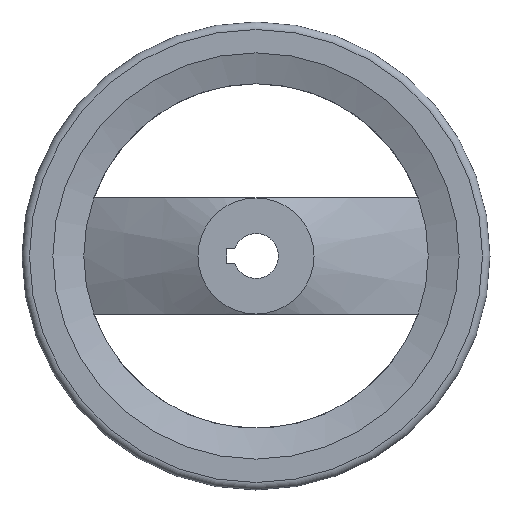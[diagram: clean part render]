
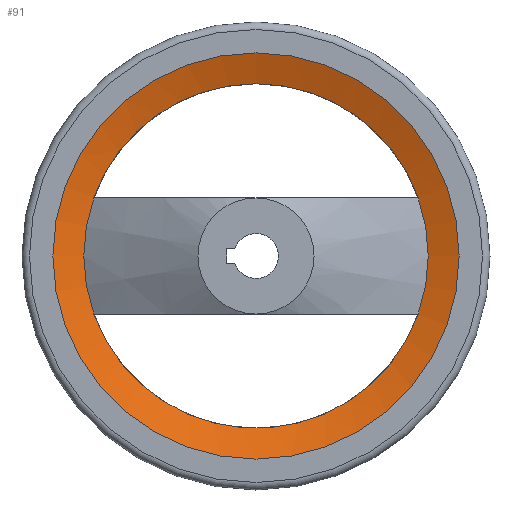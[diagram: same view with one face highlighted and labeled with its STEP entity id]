
A CAD part, left-side view. The second image highlights one B-rep face of the part: STEP entity #91.
In plain terms, the highlighted conical face has half-angle 70.918 degrees and reference radius 46 mm.
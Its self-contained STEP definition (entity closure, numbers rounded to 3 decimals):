
#91 = ADVANCED_FACE( '', ( #140, #141 ), #142, .F. );
#140 = FACE_OUTER_BOUND( '', #196, .T. );
#141 = FACE_BOUND( '', #197, .T. );
#142 = CONICAL_SURFACE( '', #198, 46., 1.238 );
#196 = EDGE_LOOP( '', ( #320 ) );
#197 = EDGE_LOOP( '', ( #321, #322, #323, #324 ) );
#198 = AXIS2_PLACEMENT_3D( '', #325, #326, #327 );
#320 = ORIENTED_EDGE( '', *, *, #401, .T. );
#321 = ORIENTED_EDGE( '', *, *, #374, .F. );
#322 = ORIENTED_EDGE( '', *, *, #394, .T. );
#323 = ORIENTED_EDGE( '', *, *, #389, .F. );
#324 = ORIENTED_EDGE( '', *, *, #393, .T. );
#325 = CARTESIAN_POINT( '', ( 20.854, 0., 0. ) );
#326 = DIRECTION( '', ( -1., 0., 0. ) );
#327 = DIRECTION( '', ( 0., 0., 1. ) );
#374 = EDGE_CURVE( '', #412, #418, #429, .T. );
#389 = EDGE_CURVE( '', #424, #406, #454, .T. );
#393 = EDGE_CURVE( '', #424, #418, #458, .F. );
#394 = EDGE_CURVE( '', #412, #406, #459, .F. );
#401 = EDGE_CURVE( '', #472, #472, #473, .T. );
#406 = VERTEX_POINT( '', #478 );
#412 = VERTEX_POINT( '', #519 );
#418 = VERTEX_POINT( '', #562 );
#424 = VERTEX_POINT( '', #603 );
#429 = CIRCLE( '', #645, 46. );
#454 = CIRCLE( '', #678, 46. );
#458 = CIRCLE( '', #682, 46. );
#459 = CIRCLE( '', #683, 46. );
#472 = VERTEX_POINT( '', #696 );
#473 = CIRCLE( '', #697, 54.25 );
#478 = CARTESIAN_POINT( '', ( 20.854, 43.31, -15.5 ) );
#519 = CARTESIAN_POINT( '', ( 20.854, -43.31, -15.5 ) );
#562 = CARTESIAN_POINT( '', ( 20.854, -43.31, 15.5 ) );
#603 = CARTESIAN_POINT( '', ( 20.854, 43.31, 15.5 ) );
#645 = AXIS2_PLACEMENT_3D( '', #707, #708, #709 );
#678 = AXIS2_PLACEMENT_3D( '', #736, #737, #738 );
#682 = AXIS2_PLACEMENT_3D( '', #748, #749, #750 );
#683 = AXIS2_PLACEMENT_3D( '', #751, #752, #753 );
#696 = CARTESIAN_POINT( '', ( 18., 0., 54.25 ) );
#697 = AXIS2_PLACEMENT_3D( '', #772, #773, #774 );
#707 = CARTESIAN_POINT( '', ( 20.854, 0., 0. ) );
#708 = DIRECTION( '', ( -1., 0., 0. ) );
#709 = DIRECTION( '', ( 0., 0., 1. ) );
#736 = CARTESIAN_POINT( '', ( 20.854, 0., 0. ) );
#737 = DIRECTION( '', ( -1., 0., 0. ) );
#738 = DIRECTION( '', ( 0., 0., 1. ) );
#748 = CARTESIAN_POINT( '', ( 20.854, 0., 0. ) );
#749 = DIRECTION( '', ( -1., 0., 0. ) );
#750 = DIRECTION( '', ( 0., 0., 1. ) );
#751 = CARTESIAN_POINT( '', ( 20.854, 0., 0. ) );
#752 = DIRECTION( '', ( -1., 0., 0. ) );
#753 = DIRECTION( '', ( 0., 0., 1. ) );
#772 = CARTESIAN_POINT( '', ( 18., 0., 0. ) );
#773 = DIRECTION( '', ( -1., 0., 0. ) );
#774 = DIRECTION( '', ( 0., 0., 1. ) );
